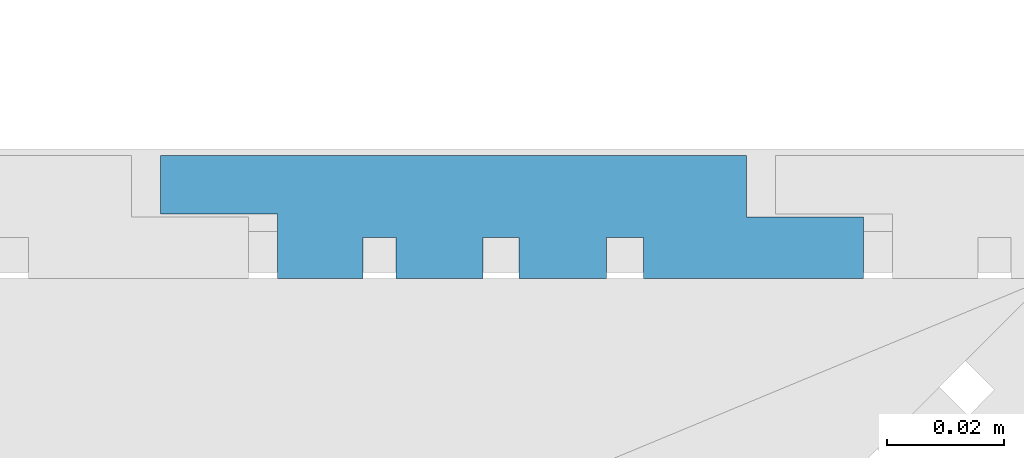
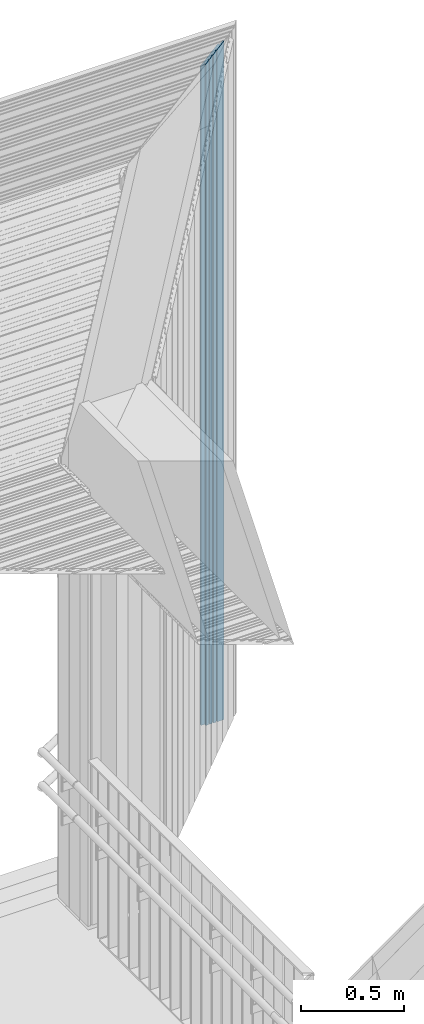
# One storey, part 148 of 418: 1 building element part, 1 element without a shape of its own.
"""IFC2X3 building model written with IfcOpenShell, lengths in millimetres."""

from ifc_helpers import new_model, entity, si_unit, converted_unit, derived_unit, money_unit, direction, frame, origin_with_axes, place, context, subcontext, project, spatial, polyline, outline, extrude, boolean, faceted_brep, material, type_object, element, aggregate, save


model = new_model("IFC2X3")

# Units and contexts
model_context = context("Model", 3, precision=0.01, world=origin_with_axes(), true_north=direction((0.0, 1.0)))
body_context = subcontext(model_context, "Body", "Model", "MODEL_VIEW")
ifc_project = project(units=[si_unit("LENGTHUNIT", "METRE", prefix="MILLI"), si_unit("AREAUNIT", "SQUARE_METRE"), si_unit("VOLUMEUNIT", "CUBIC_METRE"), converted_unit("PLANEANGLEUNIT", "DEGREE", entity("IfcPlaneAngleMeasure", 0.0174532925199), si_unit("PLANEANGLEUNIT", "RADIAN"), dimensions=[0, 0, 0, 0, 0, 0, 0]), si_unit("SOLIDANGLEUNIT", "STERADIAN"), money_unit("EUR"), converted_unit("TIMEUNIT", "Year", entity("IfcTimeMeasure", 31556926.0), si_unit("TIMEUNIT", "SECOND"), dimensions=[0, 0, 1, 0, 0, 0, 0]), si_unit("MASSUNIT", "GRAM", prefix="KILO"), si_unit("THERMODYNAMICTEMPERATUREUNIT", "DEGREE_CELSIUS"), si_unit("LUMINOUSINTENSITYUNIT", "LUMEN"), si_unit("ENERGYUNIT", "JOULE", prefix="MEGA"), derived_unit("THERMALCONDUCTANCEUNIT", [(si_unit("POWERUNIT", "WATT"), 1), (si_unit("LENGTHUNIT", "METRE"), -1), (si_unit("THERMODYNAMICTEMPERATUREUNIT", "KELVIN"), -1)]), derived_unit("SPECIFICHEATCAPACITYUNIT", [(si_unit("ENERGYUNIT", "JOULE"), 1), (si_unit("MASSUNIT", "GRAM", prefix="KILO"), -1), (si_unit("THERMODYNAMICTEMPERATUREUNIT", "KELVIN"), -1)]), derived_unit("MASSDENSITYUNIT", [(si_unit("MASSUNIT", "GRAM", prefix="KILO"), 1), (si_unit("VOLUMEUNIT", "CUBIC_METRE"), -1)])], contexts=[model_context])

# Site, building, storey
site_placement = place(None, origin_with_axes())
site = spatial("IfcSite", under=ifc_project, at=site_placement, Name="Paldiski mnt 245/1, Tallinn, Harjumaa", CompositionType="COMPLEX")
building_placement = place(site_placement, origin_with_axes())
building = spatial("IfcBuilding", under=site, at=building_placement, Name="RKAS Hoone üldnimetus (kasutust iseloomustav) -> IFC Project Manager -> SOLIBRI", CompositionType="ELEMENT")
storey_placement = place(building_placement, origin_with_axes())
storey = spatial("IfcBuildingStorey", under=building, at=storey_placement, Name="Esimene korrus", CompositionType="ELEMENT", Elevation=0.0)

# Proxy, building element part
building_element_proxy_type = type_object("IfcBuildingElementProxyType", Name="Laudis esiprofiil_01 21 x 622", PredefinedType="NOTDEFINED")
proxy_placement = place(storey_placement, frame((-46724.4601459, 39788.252735, 0.0), z_axis=(0.0, 0.0, 1.0), x_axis=(0.0, -1.0, 0.0)))
proxy = element("IfcBuildingElementProxy", 1, at=proxy_placement, inside=storey, type_object=building_element_proxy_type, Name="Varikatus")
ifc_material = material(Name="Laudis 5072 Honka 45 horisontaalne raastas")
building_element_part_placement = place(proxy_placement, origin_with_axes())
building_element_part = element("IfcBuildingElementPart", 2, at=building_element_part_placement, material=ifc_material, Name="Laudis 5072 Honka 45 horisontaalne raastas", context=body_context, shape_type="CSG", body=[
    boolean("DIFFERENCE", boolean("DIFFERENCE", boolean("DIFFERENCE", boolean("DIFFERENCE", boolean("DIFFERENCE", boolean("DIFFERENCE", extrude(outline(polyline([(3.20348192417e-08, -100.971430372), (-10.5000010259, -100.971430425), (-10.5000005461, -80.9714298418), (-20.9999998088, -80.9714301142), (-21.0000010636, -118.497524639), (-14.0000005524, -118.497525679), (-14.0000003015, -124.860022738), (-20.99999981, -124.860022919), (-20.9999998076, -139.79914009), (-14.0000002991, -139.799139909), (-14.0000007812, -145.926080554), (-21.0000002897, -145.926080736), (-21.0000013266, -160.754573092), (-14.0000008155, -160.754574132), (-14.0000015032, -166.395242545), (-21.0000010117, -166.395242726), (-21.0000007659, -180.971429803), (-10.000001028, -180.971430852), (-10.0000002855, -200.971430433), (-7.63172636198e-07, -200.971430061), (3.20348192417e-08, -100.971430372)])), frame((0.0, 0.0, 0.0), z_axis=(0.0, 0.0, -1.0), x_axis=(-1.0, 0.0, 0.0)), (0.0, 0.0, -1.0), 4086.15997799), faceted_brep([(20.9999998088, -395.971430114, 3689.02857107), (10.5000005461, -395.971429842, 3689.02857134), (10.5000005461, -395.971429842, 4086.15997799), (20.9999998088, -395.971430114, 4086.15997799), (10.5000010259, -415.971430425, 3669.02857076), (21.0000010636, -433.497524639, 3651.50247655), (14.0000005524, -433.497525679, 3651.50247551), (14.0000003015, -439.860022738, 3645.13997845), (20.99999981, -439.860022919, 3645.13997827), (20.9999998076, -454.79914009, 3630.20086109), (14.0000002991, -454.799139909, 3630.20086128), (14.0000007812, -460.926080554, 3624.07392063), (21.0000002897, -460.926080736, 3624.07392045), (21.0000013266, -475.754573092, 3609.24542809), (14.0000008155, -475.754574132, 3609.24542705), (14.0000015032, -481.395242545, 3603.60475864), (21.0000010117, -481.395242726, 3603.60475846), (21.0000007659, -495.971429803, 3589.02857138), (10.000001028, -495.971430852, 3589.02857033), (10.0000002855, -515.971430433, 3569.02857075), (7.6316553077e-07, -515.971430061, 3569.02857112), (-3.20383719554e-08, -415.971430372, 3669.02857081), (10.5000010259, -415.971430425, 4086.15997799), (-3.20383719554e-08, -415.971430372, 4086.15997799), (7.6316553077e-07, -515.971430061, 4086.15997799), (10.0000002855, -515.971430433, 4086.15997799), (10.000001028, -495.971430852, 4086.15997799), (21.0000007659, -495.971429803, 4086.15997799), (21.0000010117, -481.395242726, 4086.15997799), (14.0000015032, -481.395242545, 4086.15997799), (14.0000008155, -475.754574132, 4086.15997799), (21.0000013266, -475.754573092, 4086.15997799), (21.0000002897, -460.926080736, 4086.15997799), (14.0000007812, -460.926080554, 4086.15997799), (14.0000002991, -454.799139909, 4086.15997799), (20.9999998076, -454.79914009, 4086.15997799), (20.99999981, -439.860022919, 4086.15997799), (14.0000003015, -439.860022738, 4086.15997799), (14.0000005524, -433.497525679, 4086.15997799), (21.0000010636, -433.497524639, 4086.15997799)], [[[0, 1, 2, 3]], [[4, 1, 0, 5, 6, 7, 8, 9, 10, 11, 12, 13, 14, 15, 16, 17, 18, 19, 20, 21]], [[1, 4, 22, 2]], [[22, 23, 24, 25, 26, 27, 28, 29, 30, 31, 32, 33, 34, 35, 36, 37, 38, 39, 3, 2]], [[5, 0, 3, 39]], [[6, 5, 39, 38]], [[7, 6, 38, 37]], [[8, 7, 37, 36]], [[9, 8, 36, 35]], [[10, 9, 35, 34]], [[11, 10, 34, 33]], [[12, 11, 33, 32]], [[13, 12, 32, 31]], [[14, 13, 31, 30]], [[15, 14, 30, 29]], [[16, 15, 29, 28]], [[17, 16, 28, 27]], [[18, 17, 27, 26]], [[19, 18, 26, 25]], [[20, 19, 25, 24]], [[21, 20, 24, 23]], [[4, 21, 23, 22]]])), faceted_brep([(20.9999998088, -500.971430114, 3584.02857107), (10.5000005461, -500.971429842, 3584.02857134), (10.5000005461, -500.971429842, 4086.15997799), (20.9999998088, -500.971430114, 4086.15997799), (10.5000010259, -520.971430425, 3564.02857076), (21.0000010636, -538.497524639, 3546.50247655), (14.0000005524, -538.497525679, 3546.50247551), (14.0000003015, -544.860022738, 3540.13997845), (20.99999981, -544.860022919, 3540.13997827), (20.9999998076, -559.79914009, 3525.20086109), (14.0000002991, -559.799139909, 3525.20086128), (14.0000007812, -565.926080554, 3519.07392063), (21.0000002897, -565.926080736, 3519.07392045), (21.0000013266, -580.754573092, 3504.24542809), (14.0000008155, -580.754574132, 3504.24542705), (14.0000015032, -586.395242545, 3498.60475864), (21.0000010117, -586.395242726, 3498.60475846), (21.0000007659, -600.971429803, 3484.02857138), (10.000001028, -600.971430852, 3484.02857033), (10.0000002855, -620.971430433, 3464.02857075), (7.63172636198e-07, -620.971430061, 3464.02857112), (-3.20383719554e-08, -520.971430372, 3564.02857081), (10.5000010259, -520.971430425, 4086.15997799), (-3.20383719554e-08, -520.971430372, 4086.15997799), (7.63172636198e-07, -620.971430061, 4086.15997799), (10.0000002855, -620.971430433, 4086.15997799), (10.000001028, -600.971430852, 4086.15997799), (21.0000007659, -600.971429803, 4086.15997799), (21.0000010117, -586.395242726, 4086.15997799), (14.0000015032, -586.395242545, 4086.15997799), (14.0000008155, -580.754574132, 4086.15997799), (21.0000013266, -580.754573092, 4086.15997799), (21.0000002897, -565.926080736, 4086.15997799), (14.0000007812, -565.926080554, 4086.15997799), (14.0000002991, -559.799139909, 4086.15997799), (20.9999998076, -559.79914009, 4086.15997799), (20.99999981, -544.860022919, 4086.15997799), (14.0000003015, -544.860022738, 4086.15997799), (14.0000005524, -538.497525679, 4086.15997799), (21.0000010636, -538.497524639, 4086.15997799)], [[[0, 1, 2, 3]], [[4, 1, 0, 5, 6, 7, 8, 9, 10, 11, 12, 13, 14, 15, 16, 17, 18, 19, 20, 21]], [[1, 4, 22, 2]], [[22, 23, 24, 25, 26, 27, 28, 29, 30, 31, 32, 33, 34, 35, 36, 37, 38, 39, 3, 2]], [[5, 0, 3, 39]], [[6, 5, 39, 38]], [[7, 6, 38, 37]], [[8, 7, 37, 36]], [[9, 8, 36, 35]], [[10, 9, 35, 34]], [[11, 10, 34, 33]], [[12, 11, 33, 32]], [[13, 12, 32, 31]], [[14, 13, 31, 30]], [[15, 14, 30, 29]], [[16, 15, 29, 28]], [[17, 16, 28, 27]], [[18, 17, 27, 26]], [[19, 18, 26, 25]], [[20, 19, 25, 24]], [[21, 20, 24, 23]], [[4, 21, 23, 22]]])), faceted_brep([(20.9999998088, -185.971430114, 3899.02857107), (10.5000005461, -185.971429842, 3899.02857134), (10.5000005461, -185.971429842, 4086.15997799), (20.9999998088, -185.971430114, 4086.15997799), (10.5000010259, -205.971430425, 3879.02857076), (21.0000010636, -223.497524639, 3861.50247655), (14.0000005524, -223.497525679, 3861.50247551), (14.0000003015, -229.860022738, 3855.13997845), (20.99999981, -229.860022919, 3855.13997827), (20.9999998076, -244.79914009, 3840.20086109), (14.0000002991, -244.799139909, 3840.20086128), (14.0000007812, -250.926080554, 3834.07392063), (21.0000002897, -250.926080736, 3834.07392045), (21.0000013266, -265.754573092, 3819.24542809), (14.0000008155, -265.754574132, 3819.24542705), (14.0000015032, -271.395242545, 3813.60475864), (21.0000010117, -271.395242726, 3813.60475846), (21.0000007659, -285.971429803, 3799.02857138), (10.000001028, -285.971430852, 3799.02857033), (10.0000002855, -305.971430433, 3779.02857075), (7.63172636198e-07, -305.971430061, 3779.02857112), (-3.20383719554e-08, -205.971430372, 3879.02857081), (10.5000010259, -205.971430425, 4086.15997799), (-3.20383719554e-08, -205.971430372, 4086.15997799), (7.63172636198e-07, -305.971430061, 4086.15997799), (10.0000002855, -305.971430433, 4086.15997799), (10.000001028, -285.971430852, 4086.15997799), (21.0000007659, -285.971429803, 4086.15997799), (21.0000010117, -271.395242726, 4086.15997799), (14.0000015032, -271.395242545, 4086.15997799), (14.0000008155, -265.754574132, 4086.15997799), (21.0000013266, -265.754573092, 4086.15997799), (21.0000002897, -250.926080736, 4086.15997799), (14.0000007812, -250.926080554, 4086.15997799), (14.0000002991, -244.799139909, 4086.15997799), (20.9999998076, -244.79914009, 4086.15997799), (20.99999981, -229.860022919, 4086.15997799), (14.0000003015, -229.860022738, 4086.15997799), (14.0000005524, -223.497525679, 4086.15997799), (21.0000010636, -223.497524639, 4086.15997799)], [[[0, 1, 2, 3]], [[4, 1, 0, 5, 6, 7, 8, 9, 10, 11, 12, 13, 14, 15, 16, 17, 18, 19, 20, 21]], [[1, 4, 22, 2]], [[22, 23, 24, 25, 26, 27, 28, 29, 30, 31, 32, 33, 34, 35, 36, 37, 38, 39, 3, 2]], [[5, 0, 3, 39]], [[6, 5, 39, 38]], [[7, 6, 38, 37]], [[8, 7, 37, 36]], [[9, 8, 36, 35]], [[10, 9, 35, 34]], [[11, 10, 34, 33]], [[12, 11, 33, 32]], [[13, 12, 32, 31]], [[14, 13, 31, 30]], [[15, 14, 30, 29]], [[16, 15, 29, 28]], [[17, 16, 28, 27]], [[18, 17, 27, 26]], [[19, 18, 26, 25]], [[20, 19, 25, 24]], [[21, 20, 24, 23]], [[4, 21, 23, 22]]])), faceted_brep([(20.9999998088, -290.971430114, 3794.02857107), (10.5000005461, -290.971429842, 3794.02857134), (10.5000005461, -290.971429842, 4086.15997799), (20.9999998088, -290.971430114, 4086.15997799), (10.5000010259, -310.971430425, 3774.02857076), (21.0000010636, -328.497524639, 3756.50247655), (14.0000005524, -328.497525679, 3756.50247551), (14.0000003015, -334.860022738, 3750.13997845), (20.99999981, -334.860022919, 3750.13997827), (20.9999998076, -349.79914009, 3735.20086109), (14.0000002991, -349.799139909, 3735.20086128), (14.0000007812, -355.926080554, 3729.07392063), (21.0000002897, -355.926080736, 3729.07392045), (21.0000013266, -370.754573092, 3714.24542809), (14.0000008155, -370.754574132, 3714.24542705), (14.0000015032, -376.395242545, 3708.60475864), (21.0000010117, -376.395242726, 3708.60475846), (21.0000007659, -390.971429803, 3694.02857138), (10.000001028, -390.971430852, 3694.02857033), (10.0000002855, -410.971430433, 3674.02857075), (7.6316553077e-07, -410.971430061, 3674.02857112), (-3.20383719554e-08, -310.971430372, 3774.02857081), (10.5000010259, -310.971430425, 4086.15997799), (-3.20383719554e-08, -310.971430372, 4086.15997799), (7.6316553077e-07, -410.971430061, 4086.15997799), (10.0000002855, -410.971430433, 4086.15997799), (10.000001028, -390.971430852, 4086.15997799), (21.0000007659, -390.971429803, 4086.15997799), (21.0000010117, -376.395242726, 4086.15997799), (14.0000015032, -376.395242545, 4086.15997799), (14.0000008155, -370.754574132, 4086.15997799), (21.0000013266, -370.754573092, 4086.15997799), (21.0000002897, -355.926080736, 4086.15997799), (14.0000007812, -355.926080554, 4086.15997799), (14.0000002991, -349.799139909, 4086.15997799), (20.9999998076, -349.79914009, 4086.15997799), (20.99999981, -334.860022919, 4086.15997799), (14.0000003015, -334.860022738, 4086.15997799), (14.0000005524, -328.497525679, 4086.15997799), (21.0000010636, -328.497524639, 4086.15997799)], [[[0, 1, 2, 3]], [[4, 1, 0, 5, 6, 7, 8, 9, 10, 11, 12, 13, 14, 15, 16, 17, 18, 19, 20, 21]], [[1, 4, 22, 2]], [[22, 23, 24, 25, 26, 27, 28, 29, 30, 31, 32, 33, 34, 35, 36, 37, 38, 39, 3, 2]], [[5, 0, 3, 39]], [[6, 5, 39, 38]], [[7, 6, 38, 37]], [[8, 7, 37, 36]], [[9, 8, 36, 35]], [[10, 9, 35, 34]], [[11, 10, 34, 33]], [[12, 11, 33, 32]], [[13, 12, 32, 31]], [[14, 13, 31, 30]], [[15, 14, 30, 29]], [[16, 15, 29, 28]], [[17, 16, 28, 27]], [[18, 17, 27, 26]], [[19, 18, 26, 25]], [[20, 19, 25, 24]], [[21, 20, 24, 23]], [[4, 21, 23, 22]]])), faceted_brep([(14.0000008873, -12.860024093, 4072.13997709), (-8.29203372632e-09, 1.13997680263, 4086.13997799), (-8.29203372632e-09, 1.13997680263, 4086.15997799), (14.0000008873, -12.860024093, 4086.15997799), (1.4387921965e-06, -95.9714304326, 3989.02857075), (14.0000008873, -19.8600231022, 4065.13997808), (20.9999998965, -19.8600231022, 4065.13997808), (20.9999998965, -34.7991407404, 4050.20086044), (14.0000008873, -34.7991393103, 4050.20086187), (14.0000008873, -40.9260801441, 4044.07392104), (20.9999998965, -40.9260801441, 4044.07392104), (21.0000013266, -55.7545733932, 4029.24542779), (14.0000008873, -55.7545748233, 4029.24542636), (14.0000008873, -61.3952431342, 4023.60475805), (21.0000013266, -61.3952431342, 4023.60475805), (21.0000013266, -75.9714304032, 4009.02857078), (10.0000014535, -75.9714304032, 4009.02857078), (10.0000000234, -95.9714304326, 3989.02857075), (1.4387921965e-06, -95.9714304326, 4086.15997799), (14.0000008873, -55.7545748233, 4086.15997799), (21.0000013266, -55.7545733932, 4086.15997799), (20.9999998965, -40.9260801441, 4086.15997799), (14.0000008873, -40.9260801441, 4086.15997799), (14.0000008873, -34.7991393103, 4086.15997799), (20.9999998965, -34.7991407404, 4086.15997799), (20.9999998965, -19.8600231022, 4086.15997799), (14.0000008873, -19.8600231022, 4086.15997799), (10.0000000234, -95.9714304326, 4086.15997799), (10.0000014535, -75.9714304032, 4086.15997799), (21.0000013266, -75.9714304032, 4086.15997799), (21.0000013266, -61.3952431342, 4086.15997799), (14.0000008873, -61.3952431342, 4086.15997799)], [[[0, 1, 2, 3]], [[4, 1, 0, 5, 6, 7, 8, 9, 10, 11, 12, 13, 14, 15, 16, 17]], [[1, 4, 18, 2]], [[19, 20, 21, 22, 23, 24, 25, 26, 3, 2, 18, 27, 28, 29, 30, 31]], [[5, 0, 3, 26]], [[6, 5, 26, 25]], [[7, 6, 25, 24]], [[8, 7, 24, 23]], [[9, 8, 23, 22]], [[10, 9, 22, 21]], [[11, 10, 21, 20]], [[12, 11, 20, 19]], [[13, 12, 19, 31]], [[14, 13, 31, 30]], [[15, 14, 30, 29]], [[16, 15, 29, 28]], [[17, 16, 28, 27]], [[4, 17, 27, 18]]])), faceted_brep([(20.9999998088, -80.9714301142, 4004.02857107), (10.5000005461, -80.9714298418, 4004.02857134), (10.5000005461, -80.9714298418, 4086.15997799), (20.9999998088, -80.9714301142, 4086.15997799), (10.5000010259, -100.971430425, 3984.02857076), (21.0000010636, -118.497524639, 3966.50247655), (14.0000005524, -118.497525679, 3966.50247551), (14.0000003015, -124.860022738, 3960.13997845), (20.99999981, -124.860022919, 3960.13997827), (20.9999998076, -139.79914009, 3945.20086109), (14.0000002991, -139.799139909, 3945.20086128), (14.0000007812, -145.926080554, 3939.07392063), (21.0000002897, -145.926080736, 3939.07392045), (21.0000013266, -160.754573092, 3924.24542809), (14.0000008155, -160.754574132, 3924.24542705), (14.0000015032, -166.395242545, 3918.60475864), (21.0000010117, -166.395242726, 3918.60475846), (21.0000007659, -180.971429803, 3904.02857138), (10.000001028, -180.971430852, 3904.02857033), (10.0000002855, -200.971430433, 3884.02857075), (7.6316553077e-07, -200.971430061, 3884.02857112), (-3.20383719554e-08, -100.971430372, 3984.02857081), (10.5000010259, -100.971430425, 4086.15997799), (-3.20383719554e-08, -100.971430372, 4086.15997799), (7.6316553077e-07, -200.971430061, 4086.15997799), (10.0000002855, -200.971430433, 4086.15997799), (10.000001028, -180.971430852, 4086.15997799), (21.0000007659, -180.971429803, 4086.15997799), (21.0000010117, -166.395242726, 4086.15997799), (14.0000015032, -166.395242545, 4086.15997799), (14.0000008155, -160.754574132, 4086.15997799), (21.0000013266, -160.754573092, 4086.15997799), (21.0000002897, -145.926080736, 4086.15997799), (14.0000007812, -145.926080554, 4086.15997799), (14.0000002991, -139.799139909, 4086.15997799), (20.9999998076, -139.79914009, 4086.15997799), (20.99999981, -124.860022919, 4086.15997799), (14.0000003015, -124.860022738, 4086.15997799), (14.0000005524, -118.497525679, 4086.15997799), (21.0000010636, -118.497524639, 4086.15997799)], [[[0, 1, 2, 3]], [[4, 1, 0, 5, 6, 7, 8, 9, 10, 11, 12, 13, 14, 15, 16, 17, 18, 19, 20, 21]], [[1, 4, 22, 2]], [[22, 23, 24, 25, 26, 27, 28, 29, 30, 31, 32, 33, 34, 35, 36, 37, 38, 39, 3, 2]], [[5, 0, 3, 39]], [[6, 5, 39, 38]], [[7, 6, 38, 37]], [[8, 7, 37, 36]], [[9, 8, 36, 35]], [[10, 9, 35, 34]], [[11, 10, 34, 33]], [[12, 11, 33, 32]], [[13, 12, 32, 31]], [[14, 13, 31, 30]], [[15, 14, 30, 29]], [[16, 15, 29, 28]], [[17, 16, 28, 27]], [[18, 17, 27, 26]], [[19, 18, 26, 25]], [[20, 19, 25, 24]], [[21, 20, 24, 23]], [[4, 21, 23, 22]]])),
])
aggregate(proxy, [building_element_part])

save(model, "model.ifc")
